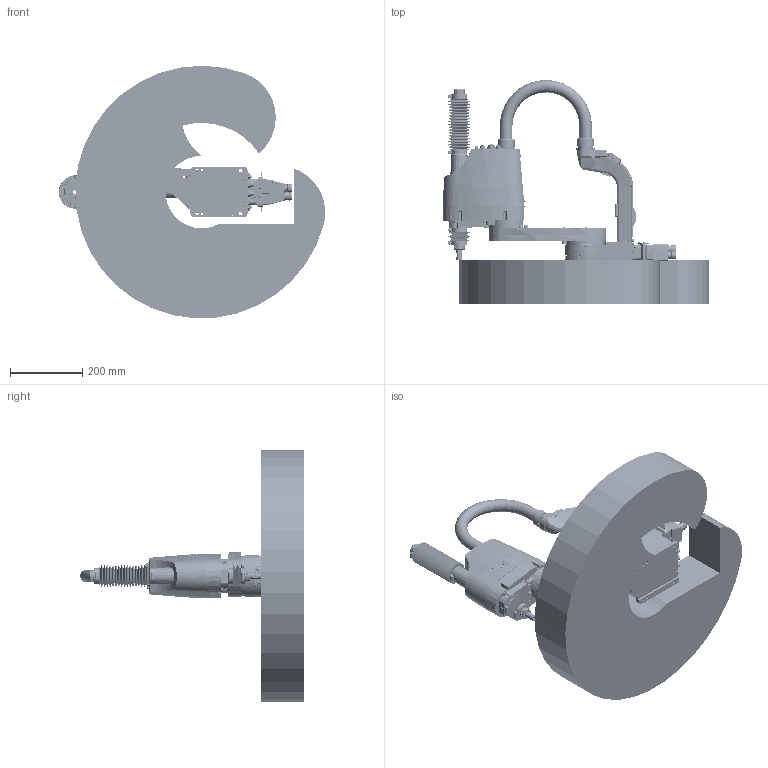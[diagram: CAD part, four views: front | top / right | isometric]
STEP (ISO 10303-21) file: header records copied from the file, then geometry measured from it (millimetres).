
FILE_DESCRIPTION( ( 'STEP AP214' ), '1' );
FILE_NAME( 'C:/Users/9607552/Desktop/GX4-A/GX4-A351C-LS-W.stp', '2023-04-07T04:58:12', ( '' ), ( '' ), ' ', 'PARTsolutions', ' ' );
FILE_SCHEMA( ( 'AUTOMOTIVE_DESIGN { 1 0 10303 214 1 1 1 1 }' ) );
Length unit declared in the file: millimetre
Products named in the file (10): GX4-A351C-LS-W; _A251C-b; _A351S-L_J1_ARM; _A251S-a; _A351S_CONDUIT; _A251C; _A251C-long; _A251C-short; _Straight; _GX4-32_WS
Assembly tree (9 placements, depth 2):
  GX4-A351C-LS-W
    _A251C-b
    _A351S-L_J1_ARM
    _A251S-a
    _A351S_CONDUIT
    _A251C
    _A251C-long
    _A251C-short
    _Straight
    _GX4-32_WS
Bounding box: 737.83 x 619.59 x 699.31 mm (x, y, z)
Volume: 42977515.6 mm3; surface area: 1881203.5 mm2
Topology: 9 solids, 9 shells, 4195 faces, 10231 edges, 6623 vertices
Faces by surface type: plane 2412, cylinder 1135, cone 435, torus 120, bspline 90, sphere 3
Full cylindrical faces by diameter (mm): 1 x30, 1.13 x55, 1.18 x55, 2.459 x4, 2.5 x19, 2.99 x1, 3 x35, 3.2 x3, 3.242 x1, 3.3 x45, 3.4 x32, 3.5 x12, 4 x4, 4.5 x24, 4.8 x8, 4.917 x2, 5.34 x8, 5.4 x14, 5.5 x26, 5.6 x4, 5.68 x4, 6 x9, 6.7 x4, 6.8 x7, 7 x44, 7.1 x4, 7.8 x4, 8 x16, 8.2 x8, 8.3 x4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
Entity records: 156878 total; most frequent: CARTESIAN_POINT 30093, DIRECTION 18529, ORIENTED_EDGE 18304, EDGE_CURVE 9152, AXIS2_PLACEMENT_3D 7062, VERTEX_POINT 6502, EDGE_LOOP 5763, FACE_OUTER_BOUND 4875
